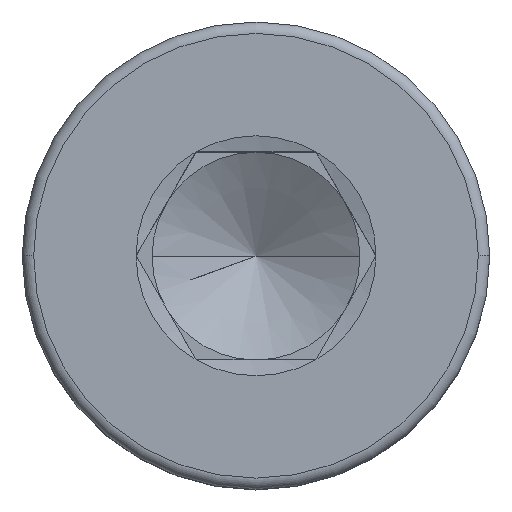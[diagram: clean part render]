
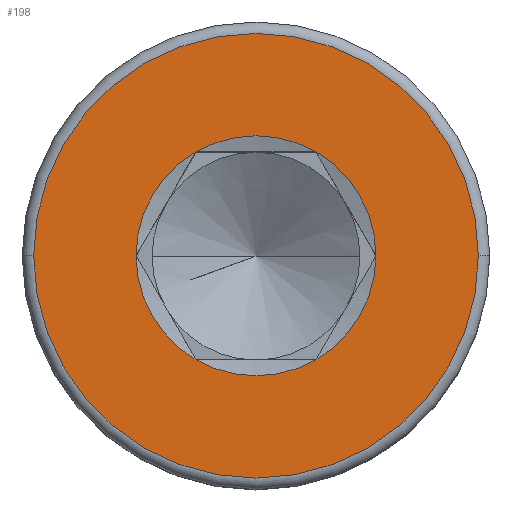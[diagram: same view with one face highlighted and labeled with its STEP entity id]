
A CAD part, top view. The second image highlights one B-rep face of the part: STEP entity #198.
In plain terms, the highlighted planar face has unit normal (0, 0, 1).
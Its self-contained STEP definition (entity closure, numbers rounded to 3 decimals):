
#34 = CARTESIAN_POINT ( 'NONE',  ( 0., 0., 2.5 ) ) ;
#63 = CARTESIAN_POINT ( 'NONE',  ( 0., 0., 2.5 ) ) ;
#75 = ORIENTED_EDGE ( 'NONE', *, *, #1399, .T. ) ;
#90 = CARTESIAN_POINT ( 'NONE',  ( -0.577, 1., 2.5 ) ) ;
#99 = VERTEX_POINT ( 'NONE', #1472 ) ;
#112 = AXIS2_PLACEMENT_3D ( 'NONE', #334, #1445, #939 ) ;
#149 = DIRECTION ( 'NONE',  ( 0., 0., 1. ) ) ;
#167 = CIRCLE ( 'NONE', #1511, 1.155 ) ;
#198 = ADVANCED_FACE ( 'NONE', ( #828, #700 ), #205, .T. ) ;
#205 = PLANE ( 'NONE',  #112 ) ;
#207 = DIRECTION ( 'NONE',  ( 0., 0., 1. ) ) ;
#242 = DIRECTION ( 'NONE',  ( 0., 0., 1. ) ) ;
#250 = ORIENTED_EDGE ( 'NONE', *, *, #1060, .F. ) ;
#255 = EDGE_LOOP ( 'NONE', ( #1154, #75 ) ) ;
#259 = AXIS2_PLACEMENT_3D ( 'NONE', #492, #149, #385 ) ;
#288 = AXIS2_PLACEMENT_3D ( 'NONE', #461, #207, #341 ) ;
#334 = CARTESIAN_POINT ( 'NONE',  ( 0., 0., 2.5 ) ) ;
#341 = DIRECTION ( 'NONE',  ( 1., 0., 0. ) ) ;
#385 = DIRECTION ( 'NONE',  ( 1., 0., 0. ) ) ;
#407 = CARTESIAN_POINT ( 'NONE',  ( 0., 0., 2.5 ) ) ;
#450 = CIRCLE ( 'NONE', #811, 1.155 ) ;
#460 = CARTESIAN_POINT ( 'NONE',  ( 0., 0., 2.5 ) ) ;
#461 = CARTESIAN_POINT ( 'NONE',  ( 0., 0., 2.5 ) ) ;
#492 = CARTESIAN_POINT ( 'NONE',  ( 0., 0., 2.5 ) ) ;
#510 = VERTEX_POINT ( 'NONE', #90 ) ;
#511 = DIRECTION ( 'NONE',  ( 0., 0., 1. ) ) ;
#524 = DIRECTION ( 'NONE',  ( 1., 0., 0. ) ) ;
#534 = ORIENTED_EDGE ( 'NONE', *, *, #1453, .F. ) ;
#573 = CIRCLE ( 'NONE', #288, 1.155 ) ;
#576 = AXIS2_PLACEMENT_3D ( 'NONE', #34, #511, #1316 ) ;
#622 = DIRECTION ( 'NONE',  ( 1., 0., 0. ) ) ;
#627 = VERTEX_POINT ( 'NONE', #1228 ) ;
#628 = VERTEX_POINT ( 'NONE', #1319 ) ;
#670 = DIRECTION ( 'NONE',  ( 0., 0., 1. ) ) ;
#684 = EDGE_CURVE ( 'NONE', #627, #1287, #753, .T. ) ;
#687 = ORIENTED_EDGE ( 'NONE', *, *, #1360, .F. ) ;
#700 = FACE_BOUND ( 'NONE', #865, .T. ) ;
#710 = DIRECTION ( 'NONE',  ( 0., 0., 1. ) ) ;
#729 = CIRCLE ( 'NONE', #1507, 2.14 ) ;
#753 = CIRCLE ( 'NONE', #259, 1.155 ) ;
#811 = AXIS2_PLACEMENT_3D ( 'NONE', #1370, #242, #622 ) ;
#820 = DIRECTION ( 'NONE',  ( 1., 0., 0. ) ) ;
#828 = FACE_OUTER_BOUND ( 'NONE', #255, .T. ) ;
#834 = DIRECTION ( 'NONE',  ( 1., 0., 0. ) ) ;
#836 = EDGE_CURVE ( 'NONE', #892, #628, #729, .T. ) ;
#865 = EDGE_LOOP ( 'NONE', ( #1007, #687, #1251, #250, #534, #1377 ) ) ;
#892 = VERTEX_POINT ( 'NONE', #1044 ) ;
#897 = CARTESIAN_POINT ( 'NONE',  ( 0.577, 1., 2.5 ) ) ;
#939 = DIRECTION ( 'NONE',  ( 1., 0., 0. ) ) ;
#1004 = AXIS2_PLACEMENT_3D ( 'NONE', #460, #710, #834 ) ;
#1007 = ORIENTED_EDGE ( 'NONE', *, *, #684, .F. ) ;
#1026 = CIRCLE ( 'NONE', #1191, 1.155 ) ;
#1044 = CARTESIAN_POINT ( 'NONE',  ( 2.14, 0., 2.5 ) ) ;
#1060 = EDGE_CURVE ( 'NONE', #1537, #99, #573, .T. ) ;
#1065 = CARTESIAN_POINT ( 'NONE',  ( 0., 0., 2.5 ) ) ;
#1088 = CARTESIAN_POINT ( 'NONE',  ( 0.577, -1., 2.5 ) ) ;
#1154 = ORIENTED_EDGE ( 'NONE', *, *, #836, .T. ) ;
#1163 = CIRCLE ( 'NONE', #1004, 2.14 ) ;
#1167 = DIRECTION ( 'NONE',  ( 1., 0., 0. ) ) ;
#1189 = EDGE_CURVE ( 'NONE', #99, #1413, #450, .T. ) ;
#1191 = AXIS2_PLACEMENT_3D ( 'NONE', #63, #1540, #524 ) ;
#1228 = CARTESIAN_POINT ( 'NONE',  ( 1.155, 0., 2.5 ) ) ;
#1251 = ORIENTED_EDGE ( 'NONE', *, *, #1189, .F. ) ;
#1287 = VERTEX_POINT ( 'NONE', #897 ) ;
#1303 = EDGE_CURVE ( 'NONE', #1287, #510, #1026, .T. ) ;
#1316 = DIRECTION ( 'NONE',  ( 1., 0., 0. ) ) ;
#1319 = CARTESIAN_POINT ( 'NONE',  ( -2.14, 0., 2.5 ) ) ;
#1320 = CARTESIAN_POINT ( 'NONE',  ( -1.155, 0., 2.5 ) ) ;
#1360 = EDGE_CURVE ( 'NONE', #1413, #627, #1438, .T. ) ;
#1370 = CARTESIAN_POINT ( 'NONE',  ( 0., 0., 2.5 ) ) ;
#1377 = ORIENTED_EDGE ( 'NONE', *, *, #1303, .F. ) ;
#1399 = EDGE_CURVE ( 'NONE', #628, #892, #1163, .T. ) ;
#1413 = VERTEX_POINT ( 'NONE', #1088 ) ;
#1438 = CIRCLE ( 'NONE', #576, 1.155 ) ;
#1439 = DIRECTION ( 'NONE',  ( 0., 0., 1. ) ) ;
#1445 = DIRECTION ( 'NONE',  ( 0., 0., 1. ) ) ;
#1453 = EDGE_CURVE ( 'NONE', #510, #1537, #167, .T. ) ;
#1472 = CARTESIAN_POINT ( 'NONE',  ( -0.577, -1., 2.5 ) ) ;
#1507 = AXIS2_PLACEMENT_3D ( 'NONE', #407, #670, #1167 ) ;
#1511 = AXIS2_PLACEMENT_3D ( 'NONE', #1065, #1439, #820 ) ;
#1537 = VERTEX_POINT ( 'NONE', #1320 ) ;
#1540 = DIRECTION ( 'NONE',  ( 0., 0., 1. ) ) ;
